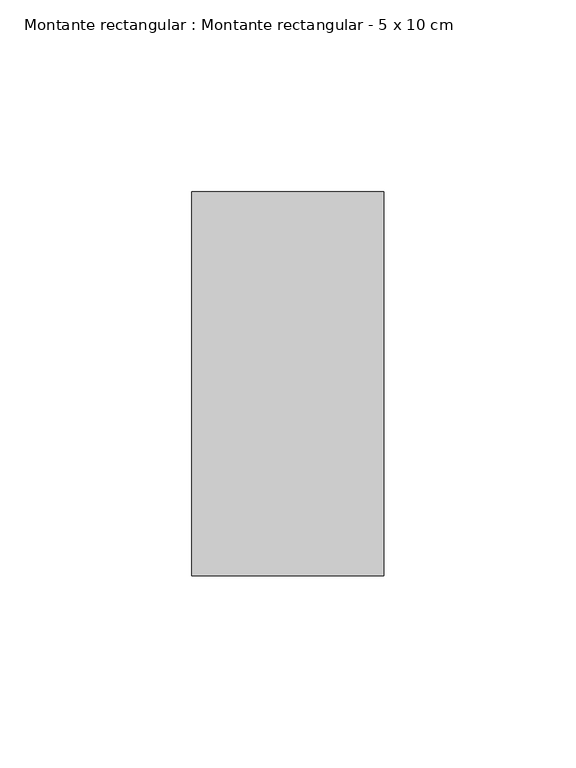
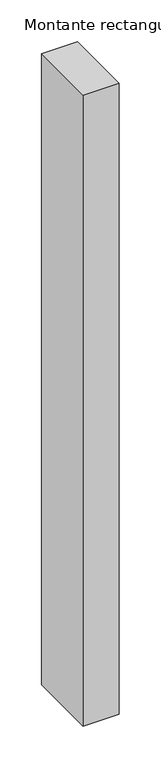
"""IFC4 building model written with IfcOpenShell, lengths in millimetres: member geometry, Montante rectangular : Montante rectangular - 5 x 10 cm."""

from ifc_helpers import new_model, si_unit, frame, origin, place, context, project, spatial, polyline, outline, extrude, source, transform, mapped, element, save


def montante_rectangular_montante_rectangular_5_x_10_cm_ab541107(model_context):
    return source(origin(), model_context, "Body", "SweptSolid", [
        extrude(outline(polyline([(25.0, 50.0), (25.0, -50.0), (-25.0, -50.0), (-25.0, 50.0), (25.0, 50.0)])), frame((0.0, 0.0, -924.7581194), z_axis=(0.0, 0.0, 1.0), x_axis=(1.0, 0.0, 0.0)), (0.0, 0.0, 1.0), 924.7581194),
    ])


if __name__ == "__main__":
    model = new_model("IFC4")
    model_context = context("Model", 3, world=origin())
    ifc_project = project(units=[si_unit("LENGTHUNIT", "METRE", prefix="MILLI")], contexts=[model_context])
    site = spatial("IfcSite", under=ifc_project)
    building = spatial("IfcBuilding", under=site)
    placement = place(None, origin())
    montante_rectangular_montante_rectangular_5_x_10_cm_shape = montante_rectangular_montante_rectangular_5_x_10_cm_ab541107(model_context)
    element("IfcMember", 1, ObjectType="Montante rectangular : Montante rectangular - 5 x 10 cm", at=placement, inside=building, context=model_context, shape_type="MappedRepresentation", body=[
        mapped(montante_rectangular_montante_rectangular_5_x_10_cm_shape, transform((0.0, 0.0, 0.0), x_axis=(1.0, 0.0, 0.0), y_axis=(0.0, 1.0, 0.0), z_axis=(0.0, 0.0, 1.0))),
    ])
    save(model, "model.ifc")
